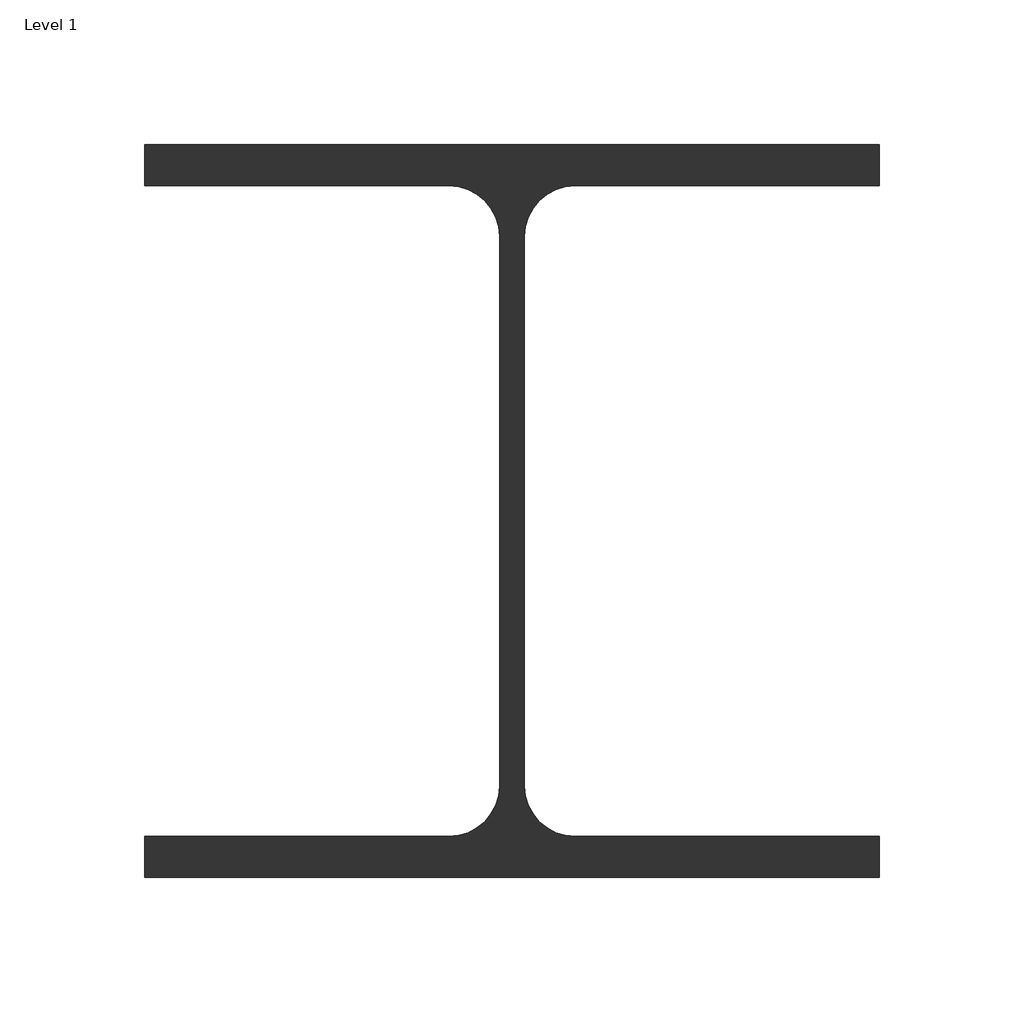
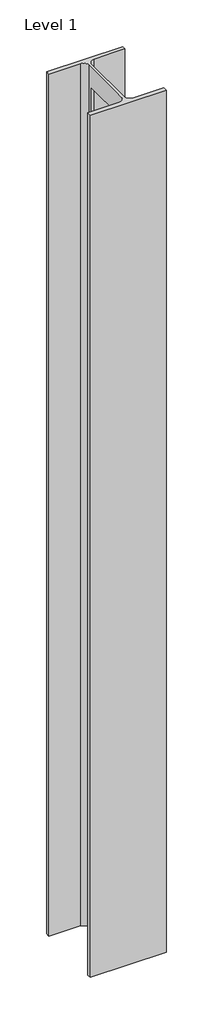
# One storey: 1 column.
"""IFC4 building model written with IfcOpenShell, lengths in millimetres."""

from ifc_helpers import new_model, si_unit, frame, origin, place, context, project, spatial, polyline, circle_curve, element, save
from ifc_brep_helpers import plane_surface, revolved_surface, advanced_brep

model = new_model("IFC4")

# Units and contexts
model_context = context("Model", 3, world=origin())
ifc_project = project(units=[si_unit("LENGTHUNIT", "METRE", prefix="MILLI")], contexts=[model_context])

# Site, building, storey
site = spatial("IfcSite", under=ifc_project)
building = spatial("IfcBuilding", under=site)
storey = spatial("IfcBuildingStorey", under=building, Name="Level 1", Elevation=0.0)

# Column
placement = place(None, origin())
element("IfcColumn", 1, ObjectType="W-Wide Flange-Column : W10X49", at=placement, inside=storey, context=model_context, shape_type="AdvancedBrep", body=[
    advanced_brep(
    [(-12583.6357313, 8255.9209528, 3048.0), (-12837.6357313, 8255.9209528, 3048.0), (-12837.6357313, 8241.7326716, 3048.0), (-12732.5134657, 8241.7326716, 3048.0), (-12714.9517469, 8224.1709528, 3048.0), (-12714.9517469, 8034.1670466, 3048.0), (-12732.5134657, 8016.6053278, 3048.0), (-12837.6357313, 8016.6053278, 3048.0), (-12837.6357313, 8002.4170466, 3048.0), (-12583.6357313, 8002.4170466, 3048.0), (-12583.6357313, 8016.6053278, 3048.0), (-12688.7579969, 8016.6053278, 3048.0), (-12706.3197157, 8034.1670466, 3048.0), (-12706.3197157, 8224.1709528, 3048.0), (-12688.7579969, 8241.7326716, 3048.0), (-12583.6357313, 8241.7326716, 3048.0), (-12583.6357313, 8255.9209528, 0.0), (-12583.6357313, 8241.7326716, 0.0), (-12688.7579969, 8241.7326716, 0.0), (-12706.3197157, 8224.1709528, 0.0), (-12706.3197157, 8034.1670466, 0.0), (-12688.7579969, 8016.6053278, 0.0), (-12583.6357313, 8016.6053278, 0.0), (-12583.6357313, 8002.4170466, 0.0), (-12837.6357313, 8002.4170466, 0.0), (-12837.6357313, 8016.6053278, 0.0), (-12732.5134657, 8016.6053278, 0.0), (-12714.9517469, 8034.1670466, 0.0), (-12714.9517469, 8224.1709528, 0.0), (-12732.5134657, 8241.7326716, 0.0), (-12837.6357313, 8241.7326716, 0.0), (-12837.6357313, 8255.9209528, 0.0), (-12714.9517469, 8209.8000434, 2542.7922688), (-12714.9517469, 8209.8000434, 2974.5922688), (-12714.9517469, 8057.4000434, 2974.5922688), (-12714.9517469, 8057.4000434, 2539.0956457), (-12714.9517469, 8087.3995963, 2539.0956457), (-12714.9517469, 8087.3995963, 2494.6456457), (-12714.9517469, 8182.6495963, 2494.6456457), (-12714.9517469, 8182.6495963, 2542.7922688), (-12706.3197157, 8209.8000434, 2974.5922688), (-12706.3197157, 8209.8000434, 2542.7922688), (-12706.3197157, 8182.6495963, 2542.7922688), (-12706.3197157, 8182.6495963, 2494.6456457), (-12706.3197157, 8087.3995963, 2494.6456457), (-12706.3197157, 8087.3995963, 2539.0956457), (-12706.3197157, 8057.4000434, 2539.0956457), (-12706.3197157, 8057.4000434, 2974.5922688)],
    [
        (0, 1),
        (1, 2),
        (2, 3),
        (3, 4, circle_curve(frame((-12732.5134657, 8224.1709528, 3048.0), z_axis=(0.0, 0.0, -1.0), x_axis=(1.0, 0.0, 0.0)), 17.5617187)),
        (4, 5),
        (5, 6, circle_curve(frame((-12732.5134657, 8034.1670466, 3048.0), z_axis=(0.0, 0.0, -1.0), x_axis=(1.0, 0.0, 0.0)), 17.5617188)),
        (6, 7),
        (7, 8),
        (8, 9),
        (9, 10),
        (10, 11),
        (11, 12, circle_curve(frame((-12688.7579969, 8034.1670466, 3048.0), z_axis=(0.0, 0.0, -1.0), x_axis=(1.0, 0.0, 0.0)), 17.5617188)),
        (12, 13),
        (13, 14, circle_curve(frame((-12688.7579969, 8224.1709528, 3048.0), z_axis=(0.0, 0.0, -1.0), x_axis=(1.0, 0.0, 0.0)), 17.5617188)),
        (14, 15),
        (15, 0),
        (16, 17),
        (17, 18),
        (18, 19, circle_curve(frame((-12688.7579969, 8224.1709528, 0.0), z_axis=(0.0, 0.0, 1.0), x_axis=(1.0, 0.0, 0.0)), 17.5617187)),
        (19, 20),
        (20, 21, circle_curve(frame((-12688.7579969, 8034.1670466, 0.0), z_axis=(0.0, 0.0, 1.0), x_axis=(1.0, 0.0, 0.0)), 17.5617188)),
        (21, 22),
        (22, 23),
        (23, 24),
        (24, 25),
        (25, 26),
        (26, 27, circle_curve(frame((-12732.5134657, 8034.1670466, 0.0), z_axis=(0.0, 0.0, 1.0), x_axis=(1.0, 0.0, 0.0)), 17.5617188)),
        (27, 28),
        (28, 29, circle_curve(frame((-12732.5134657, 8224.1709528, 0.0), z_axis=(0.0, 0.0, 1.0), x_axis=(1.0, 0.0, 0.0)), 17.5617188)),
        (29, 30),
        (30, 31),
        (31, 16),
        (0, 16),
        (31, 1),
        (30, 2),
        (29, 3),
        (28, 4),
        (27, 5),
        (32, 33),
        (33, 34),
        (34, 35),
        (35, 36),
        (36, 37),
        (37, 38),
        (38, 39),
        (39, 32),
        (26, 6),
        (25, 7),
        (24, 8),
        (23, 9),
        (22, 10),
        (21, 11),
        (20, 12),
        (19, 13),
        (40, 41),
        (41, 42),
        (42, 43),
        (43, 44),
        (44, 45),
        (45, 46),
        (46, 47),
        (47, 40),
        (18, 14),
        (17, 15),
        (40, 33),
        (32, 41),
        (39, 42),
        (38, 43),
        (37, 44),
        (36, 45),
        (35, 46),
        (34, 47),
    ],
    [
        plane_surface(frame((-12837.6357313, 8255.9209528, 3048.0), z_axis=(0.0, 0.0, 1.0), x_axis=(-1.0, 0.0, 0.0))),
        plane_surface(frame((-12837.6357313, 8255.9209528, 0.0), z_axis=(0.0, 0.0, -1.0), x_axis=(1.0, 0.0, 0.0))),
        plane_surface(frame((-12583.6357313, 8255.9209528, 3048.0), z_axis=(0.0, 1.0, 0.0), x_axis=(0.0, 0.0, -1.0))),
        plane_surface(frame((-12837.6357313, 8255.9209528, 3048.0), z_axis=(-1.0, 0.0, 0.0), x_axis=(0.0, 0.0, -1.0))),
        plane_surface(frame((-12837.6357313, 8241.7326716, 3048.0), z_axis=(0.0, -1.0, 0.0), x_axis=(0.0, 0.0, -1.0))),
        revolved_surface(polyline([(-12714.951747, 8224.1709528, 0.0), (-12714.951747, 8224.1709528, 3048.0)]), (-12732.5134657, 8224.1709528, 0.0), (0.0, 0.0, -1.0)),
        plane_surface(frame((-12714.9517469, 8224.1709528, 3048.0), z_axis=(-1.0, 0.0, 0.0), x_axis=(0.0, 0.0, -1.0))),
        revolved_surface(polyline([(-12714.951747, 8034.1670466, 0.0), (-12714.951747, 8034.1670466, 3048.0)]), (-12732.5134657, 8034.1670466, 0.0), (0.0, 0.0, -1.0)),
        plane_surface(frame((-12732.5134657, 8016.6053278, 3048.0), z_axis=(0.0, 1.0, 0.0), x_axis=(0.0, 0.0, -1.0))),
        plane_surface(frame((-12837.6357313, 8016.6053278, 3048.0), z_axis=(-1.0, 0.0, 0.0), x_axis=(0.0, 0.0, -1.0))),
        plane_surface(frame((-12837.6357313, 8002.4170466, 3048.0), z_axis=(0.0, -1.0, 0.0), x_axis=(0.0, 0.0, -1.0))),
        plane_surface(frame((-12583.6357313, 8002.4170466, 3048.0), z_axis=(1.0, 0.0, 0.0), x_axis=(0.0, 0.0, -1.0))),
        plane_surface(frame((-12583.6357313, 8016.6053278, 3048.0), z_axis=(0.0, 1.0, 0.0), x_axis=(0.0, 0.0, -1.0))),
        revolved_surface(polyline([(-12671.1962782, 8034.1670466, 0.0), (-12671.1962782, 8034.1670466, 3048.0)]), (-12688.7579969, 8034.1670466, 0.0), (0.0, 0.0, -1.0)),
        plane_surface(frame((-12706.3197157, 8034.1670466, 3048.0), z_axis=(1.0, 0.0, 0.0), x_axis=(0.0, 0.0, -1.0))),
        revolved_surface(polyline([(-12671.1962782, 8224.1709528, 0.0), (-12671.1962782, 8224.1709528, 3048.0)]), (-12688.7579969, 8224.1709528, 0.0), (0.0, 0.0, -1.0)),
        plane_surface(frame((-12688.7579969, 8241.7326716, 3048.0), z_axis=(0.0, -1.0, 0.0), x_axis=(0.0, 0.0, -1.0))),
        plane_surface(frame((-12583.6357313, 8241.7326716, 3048.0), z_axis=(1.0, 0.0, 0.0), x_axis=(0.0, 0.0, -1.0))),
        plane_surface(frame((-15758.6357313, 8209.8000434, 2974.5922688), z_axis=(0.0, -1.0, 0.0), x_axis=(1.0, 0.0, 0.0))),
        plane_surface(frame((-15758.6357313, 8209.8000434, 2542.7922688), z_axis=(0.0, 0.0, 1.0), x_axis=(1.0, 0.0, 0.0))),
        plane_surface(frame((-15758.6357313, 8182.6495963, 2542.7922688), z_axis=(0.0, -1.0, 0.0), x_axis=(1.0, 0.0, 0.0))),
        plane_surface(frame((-15758.6357313, 8182.6495963, 2494.6456457), z_axis=(0.0, 0.0, 1.0), x_axis=(1.0, 0.0, 0.0))),
        plane_surface(frame((-15758.6357313, 8087.3995963, 2494.6456457), z_axis=(0.0, 1.0, 0.0), x_axis=(1.0, 0.0, 0.0))),
        plane_surface(frame((-15758.6357313, 8087.3995963, 2539.0956457), z_axis=(0.0, 0.0, 1.0), x_axis=(1.0, 0.0, 0.0))),
        plane_surface(frame((-15758.6357313, 8057.4000434, 2539.0956457), z_axis=(0.0, 1.0, 0.0), x_axis=(1.0, 0.0, 0.0))),
        plane_surface(frame((-15758.6357313, 8057.4000434, 2974.5922688), z_axis=(0.0, 0.0, -1.0), x_axis=(1.0, 0.0, 0.0))),
    ],
    [
        (0, [[1, 2, 3, 4, 5, 6, 7, 8, 9, 10, 11, 12, 13, 14, 15, 16]]),
        (1, [[17, 18, 19, 20, 21, 22, 23, 24, 25, 26, 27, 28, 29, 30, 31, 32]]),
        (2, [[-1, 33, -32, 34]]),
        (3, [[-2, -34, -31, 35]]),
        (4, [[-3, -35, -30, 36]]),
        (5, [[-4, -36, -29, 37]]),
        (6, [[-5, -37, -28, 38], [39, 40, 41, 42, 43, 44, 45, 46]]),
        (7, [[-6, -38, -27, 47]]),
        (8, [[-7, -47, -26, 48]]),
        (9, [[-8, -48, -25, 49]]),
        (10, [[-9, -49, -24, 50]]),
        (11, [[-10, -50, -23, 51]]),
        (12, [[-11, -51, -22, 52]]),
        (13, [[-12, -52, -21, 53]]),
        (14, [[-13, -53, -20, 54], [55, 56, 57, 58, 59, 60, 61, 62]]),
        (15, [[-14, -54, -19, 63]]),
        (16, [[-15, -63, -18, 64]]),
        (17, [[-16, -64, -17, -33]]),
        (18, [[65, -39, 66, -55]]),
        (19, [[-66, -46, 67, -56]]),
        (20, [[-67, -45, 68, -57]]),
        (21, [[-68, -44, 69, -58]]),
        (22, [[-69, -43, 70, -59]]),
        (23, [[-70, -42, 71, -60]]),
        (24, [[-71, -41, 72, -61]]),
        (25, [[-65, -62, -72, -40]]),
    ],
),
])

save(model, "model.ifc")
